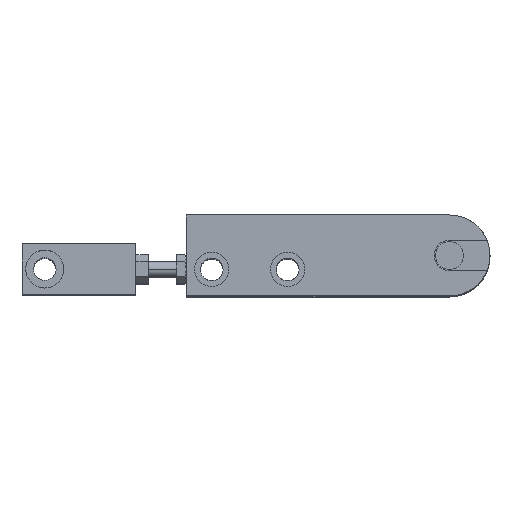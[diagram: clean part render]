
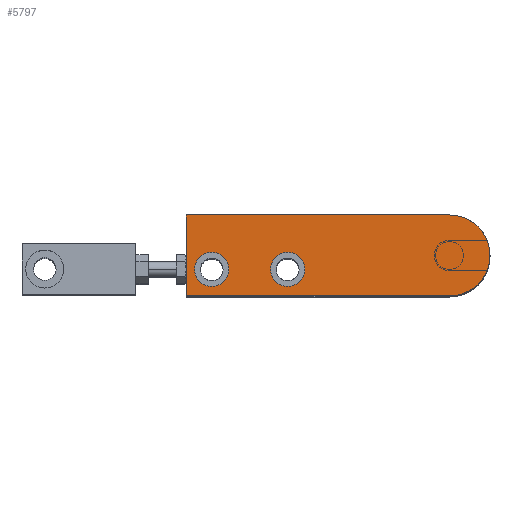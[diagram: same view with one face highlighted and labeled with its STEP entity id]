
A CAD part, top view. The second image highlights one B-rep face of the part: STEP entity #5797.
In plain terms, the highlighted planar face has unit normal (0, 0, 1) as drawn and (0, 0, -1) by its records, which use the part's own axes.
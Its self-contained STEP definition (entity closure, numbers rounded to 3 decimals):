
#5 = EDGE_LOOP ( 'NONE', ( #461, #6160, #978, #5580, #4184 ) ) ;
#151 = VECTOR ( 'NONE', #4644, 1000. ) ;
#221 = CARTESIAN_POINT ( 'NONE',  ( -16., 0., -5. ) ) ;
#306 = CIRCLE ( 'NONE', #5585, 16. ) ;
#359 = CARTESIAN_POINT ( 'NONE',  ( 100.75, -5.5, -5. ) ) ;
#410 = CARTESIAN_POINT ( 'NONE',  ( 104., 16., -5. ) ) ;
#461 = ORIENTED_EDGE ( 'NONE', *, *, #3100, .F. ) ;
#487 = VERTEX_POINT ( 'NONE', #4507 ) ;
#527 = VERTEX_POINT ( 'NONE', #5665 ) ;
#667 = DIRECTION ( 'NONE',  ( -1., 0., 0. ) ) ;
#758 = DIRECTION ( 'NONE',  ( 0., 0., -1. ) ) ;
#841 = CIRCLE ( 'NONE', #4342, 6.75 ) ;
#913 = CARTESIAN_POINT ( 'NONE',  ( 104., -16., -5. ) ) ;
#929 = VERTEX_POINT ( 'NONE', #3490 ) ;
#952 = EDGE_CURVE ( 'NONE', #5220, #5080, #5495, .T. ) ;
#962 = AXIS2_PLACEMENT_3D ( 'NONE', #5539, #4419, #667 ) ;
#978 = ORIENTED_EDGE ( 'NONE', *, *, #952, .F. ) ;
#1242 = ORIENTED_EDGE ( 'NONE', *, *, #6304, .F. ) ;
#1482 = AXIS2_PLACEMENT_3D ( 'NONE', #2789, #1769, #3845 ) ;
#1625 = DIRECTION ( 'NONE',  ( -1., 0., 0. ) ) ;
#1655 = DIRECTION ( 'NONE',  ( 1., 0., 0. ) ) ;
#1769 = DIRECTION ( 'NONE',  ( 0., 0., 1. ) ) ;
#1832 = EDGE_CURVE ( 'NONE', #527, #4675, #841, .T. ) ;
#1931 = DIRECTION ( 'NONE',  ( 0., 1., 0. ) ) ;
#1966 = CIRCLE ( 'NONE', #5400, 6.75 ) ;
#2078 = CIRCLE ( 'NONE', #6298, 16. ) ;
#2079 = CARTESIAN_POINT ( 'NONE',  ( 0., 16., -5. ) ) ;
#2105 = EDGE_CURVE ( 'NONE', #5080, #487, #3437, .T. ) ;
#2324 = DIRECTION ( 'NONE',  ( -1., 0., 0. ) ) ;
#2750 = CARTESIAN_POINT ( 'NONE',  ( 94., -5.5, -5. ) ) ;
#2764 = CARTESIAN_POINT ( 'NONE',  ( 0., 0., -5. ) ) ;
#2777 = DIRECTION ( 'NONE',  ( -1., 0., 0. ) ) ;
#2789 = CARTESIAN_POINT ( 'NONE',  ( 0., 0., -5. ) ) ;
#2879 = VECTOR ( 'NONE', #1931, 1000. ) ;
#3015 = DIRECTION ( 'NONE',  ( 1., 0., 0. ) ) ;
#3100 = EDGE_CURVE ( 'NONE', #487, #5402, #2078, .T. ) ;
#3337 = EDGE_CURVE ( 'NONE', #5402, #929, #306, .T. ) ;
#3437 = LINE ( 'NONE', #2079, #3689 ) ;
#3490 = CARTESIAN_POINT ( 'NONE',  ( 0., -16., -5. ) ) ;
#3689 = VECTOR ( 'NONE', #1625, 1000. ) ;
#3694 = VERTEX_POINT ( 'NONE', #359 ) ;
#3696 = EDGE_CURVE ( 'NONE', #929, #5220, #4179, .T. ) ;
#3845 = DIRECTION ( 'NONE',  ( 1., 0., 0. ) ) ;
#3872 = CARTESIAN_POINT ( 'NONE',  ( 104., -16., -5. ) ) ;
#4137 = ORIENTED_EDGE ( 'NONE', *, *, #1832, .F. ) ;
#4179 = LINE ( 'NONE', #913, #151 ) ;
#4184 = ORIENTED_EDGE ( 'NONE', *, *, #3337, .F. ) ;
#4196 = ORIENTED_EDGE ( 'NONE', *, *, #4640, .F. ) ;
#4293 = CARTESIAN_POINT ( 'NONE',  ( 87.25, -5.5, -5. ) ) ;
#4342 = AXIS2_PLACEMENT_3D ( 'NONE', #5521, #758, #2324 ) ;
#4419 = DIRECTION ( 'NONE',  ( 0., 0., -1. ) ) ;
#4507 = CARTESIAN_POINT ( 'NONE',  ( 0., 16., -5. ) ) ;
#4523 = ORIENTED_EDGE ( 'NONE', *, *, #6511, .F. ) ;
#4551 = EDGE_LOOP ( 'NONE', ( #1242, #4137 ) ) ;
#4640 = EDGE_CURVE ( 'NONE', #3694, #6523, #1966, .T. ) ;
#4644 = DIRECTION ( 'NONE',  ( 1., 0., 0. ) ) ;
#4675 = VERTEX_POINT ( 'NONE', #6165 ) ;
#4728 = DIRECTION ( 'NONE',  ( -1., 0., 0. ) ) ;
#5080 = VERTEX_POINT ( 'NONE', #5452 ) ;
#5179 = FACE_BOUND ( 'NONE', #4551, .T. ) ;
#5220 = VERTEX_POINT ( 'NONE', #3872 ) ;
#5247 = CIRCLE ( 'NONE', #6790, 6.75 ) ;
#5283 = CARTESIAN_POINT ( 'NONE',  ( 64., -5.5, -5. ) ) ;
#5400 = AXIS2_PLACEMENT_3D ( 'NONE', #2750, #6008, #2777 ) ;
#5402 = VERTEX_POINT ( 'NONE', #221 ) ;
#5452 = CARTESIAN_POINT ( 'NONE',  ( 104., 16., -5. ) ) ;
#5495 = LINE ( 'NONE', #410, #2879 ) ;
#5521 = CARTESIAN_POINT ( 'NONE',  ( 64., -5.5, -5. ) ) ;
#5539 = CARTESIAN_POINT ( 'NONE',  ( 94., -5.5, -5. ) ) ;
#5580 = ORIENTED_EDGE ( 'NONE', *, *, #3696, .F. ) ;
#5585 = AXIS2_PLACEMENT_3D ( 'NONE', #2764, #6459, #1655 ) ;
#5665 = CARTESIAN_POINT ( 'NONE',  ( 70.75, -5.5, -5. ) ) ;
#5680 = EDGE_LOOP ( 'NONE', ( #4523, #4196 ) ) ;
#5705 = DIRECTION ( 'NONE',  ( 0., 0., 1. ) ) ;
#5797 = ADVANCED_FACE ( 'NONE', ( #6275, #5179, #5860 ), #5996, .F. ) ;
#5860 = FACE_OUTER_BOUND ( 'NONE', #5, .T. ) ;
#5996 = PLANE ( 'NONE',  #1482 ) ;
#6008 = DIRECTION ( 'NONE',  ( 0., 0., -1. ) ) ;
#6160 = ORIENTED_EDGE ( 'NONE', *, *, #2105, .F. ) ;
#6165 = CARTESIAN_POINT ( 'NONE',  ( 57.25, -5.5, -5. ) ) ;
#6275 = FACE_BOUND ( 'NONE', #5680, .T. ) ;
#6293 = CARTESIAN_POINT ( 'NONE',  ( 0., 0., -5. ) ) ;
#6298 = AXIS2_PLACEMENT_3D ( 'NONE', #6293, #5705, #3015 ) ;
#6304 = EDGE_CURVE ( 'NONE', #4675, #527, #5247, .T. ) ;
#6459 = DIRECTION ( 'NONE',  ( 0., 0., 1. ) ) ;
#6511 = EDGE_CURVE ( 'NONE', #6523, #3694, #6529, .T. ) ;
#6523 = VERTEX_POINT ( 'NONE', #4293 ) ;
#6529 = CIRCLE ( 'NONE', #962, 6.75 ) ;
#6790 = AXIS2_PLACEMENT_3D ( 'NONE', #5283, #6911, #4728 ) ;
#6911 = DIRECTION ( 'NONE',  ( 0., 0., -1. ) ) ;
